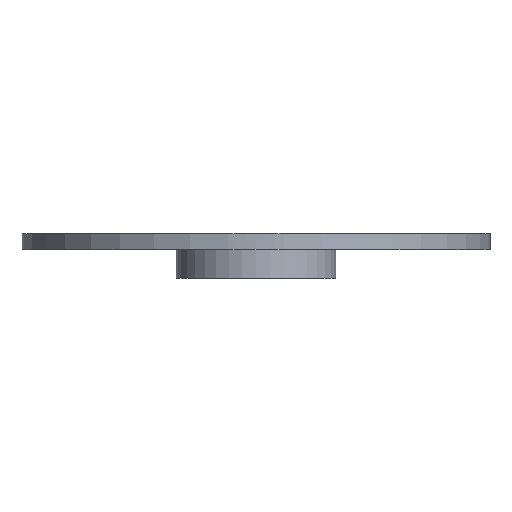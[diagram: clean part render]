
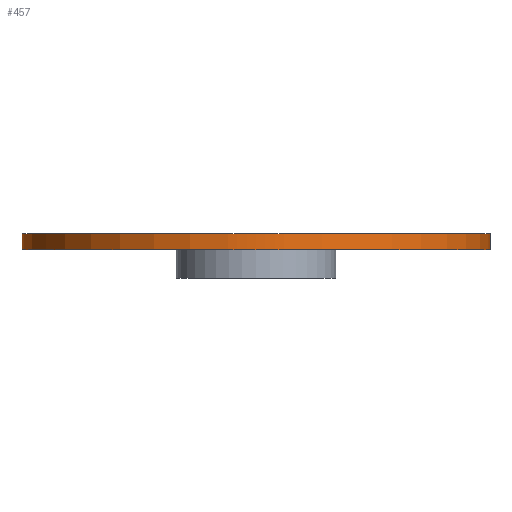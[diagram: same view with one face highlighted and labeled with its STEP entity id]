
A CAD part, front view. The second image highlights one B-rep face of the part: STEP entity #457.
In plain terms, the highlighted cylindrical face has radius 58 mm (diameter 116 mm), a full revolution.
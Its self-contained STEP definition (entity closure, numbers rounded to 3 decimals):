
#21 = EDGE_CURVE('',#22,#24,#26,.T.);
#22 = VERTEX_POINT('',#23);
#23 = CARTESIAN_POINT('',(116.,58.,11.));
#24 = VERTEX_POINT('',#25);
#25 = CARTESIAN_POINT('',(115.576,65.,11.));
#26 = CIRCLE('',#27,58.);
#27 = AXIS2_PLACEMENT_3D('',#28,#29,#30);
#28 = CARTESIAN_POINT('',(58.,58.,11.));
#29 = DIRECTION('',(0.,0.,1.));
#30 = DIRECTION('',(1.,0.,-0.));
#32 = EDGE_CURVE('',#24,#33,#35,.T.);
#33 = VERTEX_POINT('',#34);
#34 = CARTESIAN_POINT('',(65.,115.576,11.));
#35 = CIRCLE('',#36,58.);
#36 = AXIS2_PLACEMENT_3D('',#37,#38,#39);
#37 = CARTESIAN_POINT('',(58.,58.,11.));
#38 = DIRECTION('',(0.,0.,1.));
#39 = DIRECTION('',(1.,0.,-0.));
#41 = EDGE_CURVE('',#33,#42,#44,.T.);
#42 = VERTEX_POINT('',#43);
#43 = CARTESIAN_POINT('',(58.,116.,11.));
#44 = CIRCLE('',#45,58.);
#45 = AXIS2_PLACEMENT_3D('',#46,#47,#48);
#46 = CARTESIAN_POINT('',(58.,58.,11.));
#47 = DIRECTION('',(0.,0.,1.));
#48 = DIRECTION('',(1.,0.,-0.));
#50 = EDGE_CURVE('',#42,#51,#53,.T.);
#51 = VERTEX_POINT('',#52);
#52 = CARTESIAN_POINT('',(51.,115.576,11.));
#53 = CIRCLE('',#54,58.);
#54 = AXIS2_PLACEMENT_3D('',#55,#56,#57);
#55 = CARTESIAN_POINT('',(58.,58.,11.));
#56 = DIRECTION('',(0.,0.,1.));
#57 = DIRECTION('',(1.,0.,-0.));
#59 = EDGE_CURVE('',#51,#60,#62,.T.);
#60 = VERTEX_POINT('',#61);
#61 = CARTESIAN_POINT('',(0.424,65.,11.));
#62 = CIRCLE('',#63,58.);
#63 = AXIS2_PLACEMENT_3D('',#64,#65,#66);
#64 = CARTESIAN_POINT('',(58.,58.,11.));
#65 = DIRECTION('',(0.,0.,1.));
#66 = DIRECTION('',(1.,0.,-0.));
#68 = EDGE_CURVE('',#60,#69,#71,.T.);
#69 = VERTEX_POINT('',#70);
#70 = CARTESIAN_POINT('',(0.,58.,11.));
#71 = CIRCLE('',#72,58.);
#72 = AXIS2_PLACEMENT_3D('',#73,#74,#75);
#73 = CARTESIAN_POINT('',(58.,58.,11.));
#74 = DIRECTION('',(0.,0.,1.));
#75 = DIRECTION('',(1.,0.,-0.));
#77 = EDGE_CURVE('',#69,#78,#80,.T.);
#78 = VERTEX_POINT('',#79);
#79 = CARTESIAN_POINT('',(0.424,51.,11.));
#80 = CIRCLE('',#81,58.);
#81 = AXIS2_PLACEMENT_3D('',#82,#83,#84);
#82 = CARTESIAN_POINT('',(58.,58.,11.));
#83 = DIRECTION('',(0.,0.,1.));
#84 = DIRECTION('',(1.,0.,-0.));
#86 = EDGE_CURVE('',#78,#87,#89,.T.);
#87 = VERTEX_POINT('',#88);
#88 = CARTESIAN_POINT('',(51.,0.424,11.));
#89 = CIRCLE('',#90,58.);
#90 = AXIS2_PLACEMENT_3D('',#91,#92,#93);
#91 = CARTESIAN_POINT('',(58.,58.,11.));
#92 = DIRECTION('',(0.,0.,1.));
#93 = DIRECTION('',(1.,0.,-0.));
#95 = EDGE_CURVE('',#87,#96,#98,.T.);
#96 = VERTEX_POINT('',#97);
#97 = CARTESIAN_POINT('',(58.,0.,11.));
#98 = CIRCLE('',#99,58.);
#99 = AXIS2_PLACEMENT_3D('',#100,#101,#102);
#100 = CARTESIAN_POINT('',(58.,58.,11.));
#101 = DIRECTION('',(0.,0.,1.));
#102 = DIRECTION('',(1.,0.,-0.));
#104 = EDGE_CURVE('',#96,#105,#107,.T.);
#105 = VERTEX_POINT('',#106);
#106 = CARTESIAN_POINT('',(65.,0.424,11.));
#107 = CIRCLE('',#108,58.);
#108 = AXIS2_PLACEMENT_3D('',#109,#110,#111);
#109 = CARTESIAN_POINT('',(58.,58.,11.));
#110 = DIRECTION('',(0.,0.,1.));
#111 = DIRECTION('',(1.,0.,-0.));
#113 = EDGE_CURVE('',#105,#114,#116,.T.);
#114 = VERTEX_POINT('',#115);
#115 = CARTESIAN_POINT('',(115.576,51.,11.));
#116 = CIRCLE('',#117,58.);
#117 = AXIS2_PLACEMENT_3D('',#118,#119,#120);
#118 = CARTESIAN_POINT('',(58.,58.,11.));
#119 = DIRECTION('',(0.,0.,1.));
#120 = DIRECTION('',(1.,0.,-0.));
#122 = EDGE_CURVE('',#114,#22,#123,.T.);
#123 = CIRCLE('',#124,58.);
#124 = AXIS2_PLACEMENT_3D('',#125,#126,#127);
#125 = CARTESIAN_POINT('',(58.,58.,11.));
#126 = DIRECTION('',(0.,0.,1.));
#127 = DIRECTION('',(1.,0.,-0.));
#457 = ADVANCED_FACE('',(#458),#586,.T.);
#458 = FACE_BOUND('',#459,.T.);
#459 = EDGE_LOOP('',(#460,#461,#462,#463,#464,#465,#466,#467,#468,#469,
    #470,#477,#486,#495,#504,#513,#522,#531,#540,#549,#558,#567,#576,
    #583,#584,#585));
#460 = ORIENTED_EDGE('',*,*,#104,.F.);
#461 = ORIENTED_EDGE('',*,*,#95,.F.);
#462 = ORIENTED_EDGE('',*,*,#86,.F.);
#463 = ORIENTED_EDGE('',*,*,#77,.F.);
#464 = ORIENTED_EDGE('',*,*,#68,.F.);
#465 = ORIENTED_EDGE('',*,*,#59,.F.);
#466 = ORIENTED_EDGE('',*,*,#50,.F.);
#467 = ORIENTED_EDGE('',*,*,#41,.F.);
#468 = ORIENTED_EDGE('',*,*,#32,.F.);
#469 = ORIENTED_EDGE('',*,*,#21,.F.);
#470 = ORIENTED_EDGE('',*,*,#471,.F.);
#471 = EDGE_CURVE('',#472,#22,#474,.T.);
#472 = VERTEX_POINT('',#473);
#473 = CARTESIAN_POINT('',(116.,58.,7.));
#474 = B_SPLINE_CURVE_WITH_KNOTS('',1,(#475,#476),.UNSPECIFIED.,.F.,.F.,
  (2,2),(0.,4.),.PIECEWISE_BEZIER_KNOTS.);
#475 = CARTESIAN_POINT('',(116.,58.,7.));
#476 = CARTESIAN_POINT('',(116.,58.,11.));
#477 = ORIENTED_EDGE('',*,*,#478,.T.);
#478 = EDGE_CURVE('',#472,#479,#481,.T.);
#479 = VERTEX_POINT('',#480);
#480 = CARTESIAN_POINT('',(115.576,65.,7.));
#481 = CIRCLE('',#482,58.);
#482 = AXIS2_PLACEMENT_3D('',#483,#484,#485);
#483 = CARTESIAN_POINT('',(58.,58.,7.));
#484 = DIRECTION('',(0.,0.,1.));
#485 = DIRECTION('',(1.,0.,-0.));
#486 = ORIENTED_EDGE('',*,*,#487,.T.);
#487 = EDGE_CURVE('',#479,#488,#490,.T.);
#488 = VERTEX_POINT('',#489);
#489 = CARTESIAN_POINT('',(65.,115.576,7.));
#490 = CIRCLE('',#491,58.);
#491 = AXIS2_PLACEMENT_3D('',#492,#493,#494);
#492 = CARTESIAN_POINT('',(58.,58.,7.));
#493 = DIRECTION('',(0.,0.,1.));
#494 = DIRECTION('',(1.,0.,-0.));
#495 = ORIENTED_EDGE('',*,*,#496,.T.);
#496 = EDGE_CURVE('',#488,#497,#499,.T.);
#497 = VERTEX_POINT('',#498);
#498 = CARTESIAN_POINT('',(58.,116.,7.));
#499 = CIRCLE('',#500,58.);
#500 = AXIS2_PLACEMENT_3D('',#501,#502,#503);
#501 = CARTESIAN_POINT('',(58.,58.,7.));
#502 = DIRECTION('',(0.,0.,1.));
#503 = DIRECTION('',(1.,0.,-0.));
#504 = ORIENTED_EDGE('',*,*,#505,.T.);
#505 = EDGE_CURVE('',#497,#506,#508,.T.);
#506 = VERTEX_POINT('',#507);
#507 = CARTESIAN_POINT('',(51.,115.576,7.));
#508 = CIRCLE('',#509,58.);
#509 = AXIS2_PLACEMENT_3D('',#510,#511,#512);
#510 = CARTESIAN_POINT('',(58.,58.,7.));
#511 = DIRECTION('',(0.,0.,1.));
#512 = DIRECTION('',(1.,0.,-0.));
#513 = ORIENTED_EDGE('',*,*,#514,.T.);
#514 = EDGE_CURVE('',#506,#515,#517,.T.);
#515 = VERTEX_POINT('',#516);
#516 = CARTESIAN_POINT('',(0.424,65.,7.));
#517 = CIRCLE('',#518,58.);
#518 = AXIS2_PLACEMENT_3D('',#519,#520,#521);
#519 = CARTESIAN_POINT('',(58.,58.,7.));
#520 = DIRECTION('',(0.,0.,1.));
#521 = DIRECTION('',(1.,0.,-0.));
#522 = ORIENTED_EDGE('',*,*,#523,.T.);
#523 = EDGE_CURVE('',#515,#524,#526,.T.);
#524 = VERTEX_POINT('',#525);
#525 = CARTESIAN_POINT('',(0.,58.,7.));
#526 = CIRCLE('',#527,58.);
#527 = AXIS2_PLACEMENT_3D('',#528,#529,#530);
#528 = CARTESIAN_POINT('',(58.,58.,7.));
#529 = DIRECTION('',(0.,0.,1.));
#530 = DIRECTION('',(1.,0.,-0.));
#531 = ORIENTED_EDGE('',*,*,#532,.T.);
#532 = EDGE_CURVE('',#524,#533,#535,.T.);
#533 = VERTEX_POINT('',#534);
#534 = CARTESIAN_POINT('',(0.424,51.,7.));
#535 = CIRCLE('',#536,58.);
#536 = AXIS2_PLACEMENT_3D('',#537,#538,#539);
#537 = CARTESIAN_POINT('',(58.,58.,7.));
#538 = DIRECTION('',(0.,0.,1.));
#539 = DIRECTION('',(1.,0.,-0.));
#540 = ORIENTED_EDGE('',*,*,#541,.T.);
#541 = EDGE_CURVE('',#533,#542,#544,.T.);
#542 = VERTEX_POINT('',#543);
#543 = CARTESIAN_POINT('',(51.,0.424,7.));
#544 = CIRCLE('',#545,58.);
#545 = AXIS2_PLACEMENT_3D('',#546,#547,#548);
#546 = CARTESIAN_POINT('',(58.,58.,7.));
#547 = DIRECTION('',(0.,0.,1.));
#548 = DIRECTION('',(1.,0.,-0.));
#549 = ORIENTED_EDGE('',*,*,#550,.T.);
#550 = EDGE_CURVE('',#542,#551,#553,.T.);
#551 = VERTEX_POINT('',#552);
#552 = CARTESIAN_POINT('',(58.,0.,7.));
#553 = CIRCLE('',#554,58.);
#554 = AXIS2_PLACEMENT_3D('',#555,#556,#557);
#555 = CARTESIAN_POINT('',(58.,58.,7.));
#556 = DIRECTION('',(0.,0.,1.));
#557 = DIRECTION('',(1.,0.,-0.));
#558 = ORIENTED_EDGE('',*,*,#559,.T.);
#559 = EDGE_CURVE('',#551,#560,#562,.T.);
#560 = VERTEX_POINT('',#561);
#561 = CARTESIAN_POINT('',(65.,0.424,7.));
#562 = CIRCLE('',#563,58.);
#563 = AXIS2_PLACEMENT_3D('',#564,#565,#566);
#564 = CARTESIAN_POINT('',(58.,58.,7.));
#565 = DIRECTION('',(0.,0.,1.));
#566 = DIRECTION('',(1.,0.,-0.));
#567 = ORIENTED_EDGE('',*,*,#568,.T.);
#568 = EDGE_CURVE('',#560,#569,#571,.T.);
#569 = VERTEX_POINT('',#570);
#570 = CARTESIAN_POINT('',(115.576,51.,7.));
#571 = CIRCLE('',#572,58.);
#572 = AXIS2_PLACEMENT_3D('',#573,#574,#575);
#573 = CARTESIAN_POINT('',(58.,58.,7.));
#574 = DIRECTION('',(0.,0.,1.));
#575 = DIRECTION('',(1.,0.,-0.));
#576 = ORIENTED_EDGE('',*,*,#577,.T.);
#577 = EDGE_CURVE('',#569,#472,#578,.T.);
#578 = CIRCLE('',#579,58.);
#579 = AXIS2_PLACEMENT_3D('',#580,#581,#582);
#580 = CARTESIAN_POINT('',(58.,58.,7.));
#581 = DIRECTION('',(0.,0.,1.));
#582 = DIRECTION('',(1.,0.,-0.));
#583 = ORIENTED_EDGE('',*,*,#471,.T.);
#584 = ORIENTED_EDGE('',*,*,#122,.F.);
#585 = ORIENTED_EDGE('',*,*,#113,.F.);
#586 = CYLINDRICAL_SURFACE('',#587,58.);
#587 = AXIS2_PLACEMENT_3D('',#588,#589,#590);
#588 = CARTESIAN_POINT('',(58.,58.,7.));
#589 = DIRECTION('',(0.,0.,1.));
#590 = DIRECTION('',(1.,0.,-0.));
